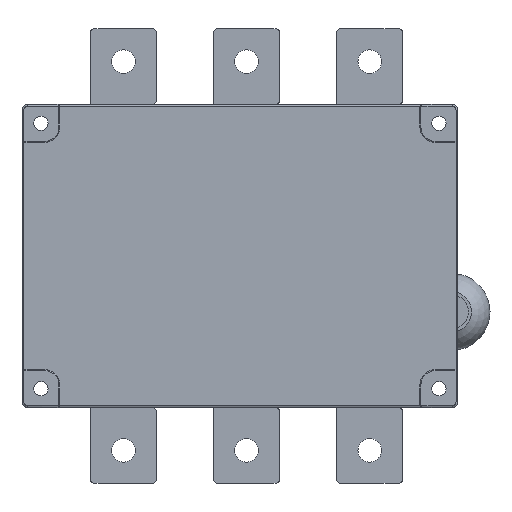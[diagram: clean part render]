
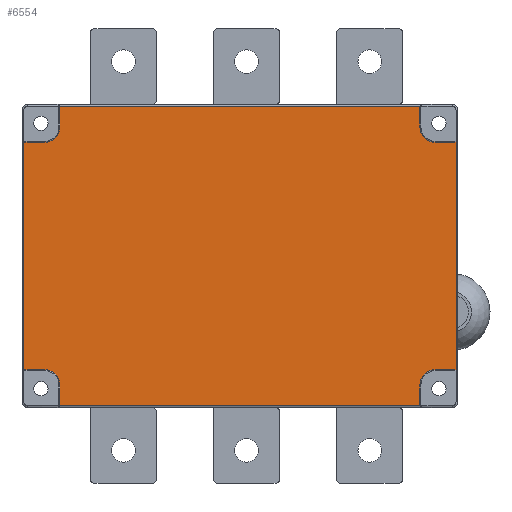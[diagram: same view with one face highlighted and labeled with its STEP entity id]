
A CAD part, front view. The second image highlights one B-rep face of the part: STEP entity #6554.
In plain terms, the highlighted planar face has unit normal (0, -1, 0).
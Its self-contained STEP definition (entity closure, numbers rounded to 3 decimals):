
#3478=CARTESIAN_POINT('',(-114.,2.,
-60.));
#3492=DIRECTION('',(0.,0.,-1.));
#3493=VECTOR('',#3492,120.);
#3494=CARTESIAN_POINT('',(-114.,2.,60.));
#3495=LINE('',#3494,#3493);
#3509=DIRECTION('',(0.,0.,-1.));
#3510=VECTOR('',#3509,11.);
#3511=CARTESIAN_POINT('',(95.,2.,79.));
#3512=LINE('',#3511,#3510);
#3513=CARTESIAN_POINT('',(103.,2.,68.));
#3514=DIRECTION('',(0.,-1.,0.));
#3515=DIRECTION('',(-1.,0.,0.));
#3516=AXIS2_PLACEMENT_3D('',#3513,#3514,#3515);
#3518=DIRECTION('',(1.,0.,0.));
#3519=VECTOR('',#3518,11.);
#3520=CARTESIAN_POINT('',(103.,2.,60.));
#3521=LINE('',#3520,#3519);
#3522=DIRECTION('',(-1.,0.,0.));
#3523=VECTOR('',#3522,11.);
#3524=CARTESIAN_POINT('',(114.,2.,-60.));
#3525=LINE('',#3524,#3523);
#3526=CARTESIAN_POINT('',(103.,2.,-68.));
#3527=DIRECTION('',(0.,-1.,0.));
#3528=DIRECTION('',(0.,0.,1.));
#3529=AXIS2_PLACEMENT_3D('',#3526,#3527,#3528);
#3531=DIRECTION('',(0.,0.,-1.));
#3532=VECTOR('',#3531,11.);
#3533=CARTESIAN_POINT('',(95.,2.,-68.));
#3534=LINE('',#3533,#3532);
#3535=DIRECTION('',(0.,0.,1.));
#3536=VECTOR('',#3535,11.);
#3537=CARTESIAN_POINT('',(-95.,2.,
-79.));
#3538=LINE('',#3537,#3536);
#3539=CARTESIAN_POINT('',(-103.,2.,-68.));
#3540=DIRECTION('',(0.,-1.,0.));
#3541=DIRECTION('',(1.,0.,0.));
#3542=AXIS2_PLACEMENT_3D('',#3539,#3540,#3541);
#3544=DIRECTION('',(-1.,0.,0.));
#3545=VECTOR('',#3544,11.);
#3546=CARTESIAN_POINT('',(-103.,2.,
-60.));
#3547=LINE('',#3546,#3545);
#3548=DIRECTION('',(1.,0.,0.));
#3549=VECTOR('',#3548,11.);
#3550=CARTESIAN_POINT('',(-114.,2.,60.));
#3551=LINE('',#3550,#3549);
#3552=CARTESIAN_POINT('',(-103.,2.,68.));
#3553=DIRECTION('',(0.,-1.,0.));
#3554=DIRECTION('',(0.,0.,-1.));
#3555=AXIS2_PLACEMENT_3D('',#3552,#3553,#3554);
#3557=DIRECTION('',(0.,0.,1.));
#3558=VECTOR('',#3557,11.);
#3559=CARTESIAN_POINT('',(-95.,2.,68.));
#3560=LINE('',#3559,#3558);
#3561=DIRECTION('',(-1.,0.,0.));
#3562=VECTOR('',#3561,190.);
#3563=CARTESIAN_POINT('',(95.,2.,79.));
#3564=LINE('',#3563,#3562);
#4318=DIRECTION('',(0.,0.,1.));
#4319=VECTOR('',#4318,120.);
#4320=CARTESIAN_POINT('',(114.,2.,-60.));
#4321=LINE('',#4320,#4319);
#4469=DIRECTION('',(1.,0.,0.));
#4470=VECTOR('',#4469,190.);
#4471=CARTESIAN_POINT('',(-95.,2.,
-79.));
#4472=LINE('',#4471,#4470);
#4700=CARTESIAN_POINT('',(-114.,2.,60.));
#4702=VERTEX_POINT('',#4700);
#4705=CARTESIAN_POINT('',(-103.,2.,60.));
#4706=VERTEX_POINT('',#4705);
#4921=VERTEX_POINT('',#3478);
#4922=CARTESIAN_POINT('',(95.,2.,79.));
#4923=CARTESIAN_POINT('',(-95.,2.,79.));
#4924=VERTEX_POINT('',#4922);
#4925=VERTEX_POINT('',#4923);
#4926=CARTESIAN_POINT('',(95.,2.,68.));
#4927=VERTEX_POINT('',#4926);
#4928=CARTESIAN_POINT('',(103.,2.,60.));
#4929=VERTEX_POINT('',#4928);
#4930=CARTESIAN_POINT('',(114.,2.,60.));
#4931=VERTEX_POINT('',#4930);
#4932=CARTESIAN_POINT('',(114.,2.,-60.));
#4933=VERTEX_POINT('',#4932);
#4934=CARTESIAN_POINT('',(103.,2.,-60.));
#4935=VERTEX_POINT('',#4934);
#4936=CARTESIAN_POINT('',(95.,2.,-68.));
#4937=VERTEX_POINT('',#4936);
#4938=CARTESIAN_POINT('',(95.,2.,-79.));
#4939=VERTEX_POINT('',#4938);
#4940=CARTESIAN_POINT('',(-95.,2.,
-79.));
#4941=VERTEX_POINT('',#4940);
#4942=CARTESIAN_POINT('',(-95.,2.,
-68.));
#4943=VERTEX_POINT('',#4942);
#4944=CARTESIAN_POINT('',(-103.,2.,-60.));
#4945=VERTEX_POINT('',#4944);
#4946=CARTESIAN_POINT('',(-95.,2.,68.));
#4947=VERTEX_POINT('',#4946);
#6517=CARTESIAN_POINT('',(0.,2.,0.));
#6518=DIRECTION('',(0.,-1.,0.));
#6519=DIRECTION('',(-1.,0.,0.));
#6520=AXIS2_PLACEMENT_3D('',#6517,#6518,#6519);
#6521=PLANE('',#6520);
#6523=ORIENTED_EDGE('',*,*,#6522,.F.);
#6525=ORIENTED_EDGE('',*,*,#6524,.T.);
#6527=ORIENTED_EDGE('',*,*,#6526,.T.);
#6529=ORIENTED_EDGE('',*,*,#6528,.T.);
#6531=ORIENTED_EDGE('',*,*,#6530,.F.);
#6533=ORIENTED_EDGE('',*,*,#6532,.T.);
#6535=ORIENTED_EDGE('',*,*,#6534,.T.);
#6537=ORIENTED_EDGE('',*,*,#6536,.T.);
#6539=ORIENTED_EDGE('',*,*,#6538,.F.);
#6541=ORIENTED_EDGE('',*,*,#6540,.T.);
#6543=ORIENTED_EDGE('',*,*,#6542,.T.);
#6545=ORIENTED_EDGE('',*,*,#6544,.T.);
#6546=ORIENTED_EDGE('',*,*,#6509,.F.);
#6547=ORIENTED_EDGE('',*,*,#5279,.T.);
#6549=ORIENTED_EDGE('',*,*,#6548,.T.);
#6551=ORIENTED_EDGE('',*,*,#6550,.T.);
#6552=EDGE_LOOP('',(#6523,#6525,#6527,#6529,#6531,#6533,#6535,#6537,#6539,#6541,
#6543,#6545,#6546,#6547,#6549,#6551));
#6553=FACE_OUTER_BOUND('',#6552,.F.);
#3517=CIRCLE('',#3516,8.);
#3530=CIRCLE('',#3529,8.);
#3543=CIRCLE('',#3542,8.);
#3556=CIRCLE('',#3555,8.);
#5279=EDGE_CURVE('',#4702,#4706,#3551,.T.);
#6509=EDGE_CURVE('',#4702,#4921,#3495,.T.);
#6522=EDGE_CURVE('',#4924,#4925,#3564,.T.);
#6524=EDGE_CURVE('',#4924,#4927,#3512,.T.);
#6526=EDGE_CURVE('',#4927,#4929,#3517,.T.);
#6528=EDGE_CURVE('',#4929,#4931,#3521,.T.);
#6530=EDGE_CURVE('',#4933,#4931,#4321,.T.);
#6532=EDGE_CURVE('',#4933,#4935,#3525,.T.);
#6534=EDGE_CURVE('',#4935,#4937,#3530,.T.);
#6536=EDGE_CURVE('',#4937,#4939,#3534,.T.);
#6538=EDGE_CURVE('',#4941,#4939,#4472,.T.);
#6540=EDGE_CURVE('',#4941,#4943,#3538,.T.);
#6542=EDGE_CURVE('',#4943,#4945,#3543,.T.);
#6544=EDGE_CURVE('',#4945,#4921,#3547,.T.);
#6548=EDGE_CURVE('',#4706,#4947,#3556,.T.);
#6550=EDGE_CURVE('',#4947,#4925,#3560,.T.);
#6554=ADVANCED_FACE('',(#6553),#6521,.T.);
